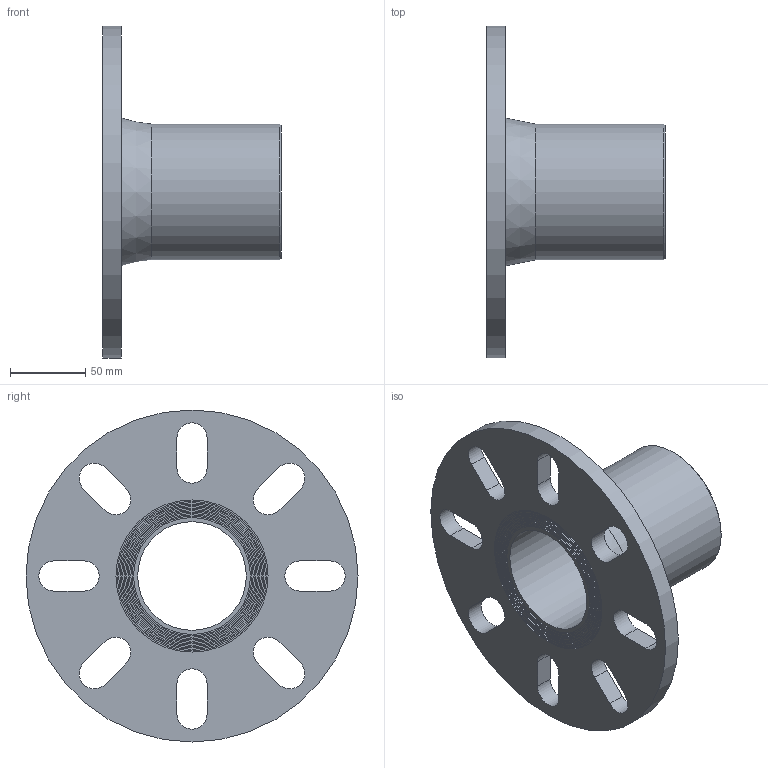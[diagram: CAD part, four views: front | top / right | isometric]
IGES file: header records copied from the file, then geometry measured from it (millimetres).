
Global section: file name: 490209090.ipt; native system: Autodesk Inventor 2015; preprocessor: unknown; author: Кирилл,,11,0; organization: 20170718.095537; date: 20171106.093605; units: millimetre
Bounding box: 118 x 220 x 220 mm (x, y, z)
Volume: 591449.3 mm3; surface area: 133848.3 mm2
Topology: 1 solids, 1 shells, 68 faces, 153 edges, 102 vertices
Faces by surface type: plane 33, revolution 24, cylinder 9, cone 2
Full cylindrical faces by diameter (mm): 77.4 x1, 81 x1, 84.6 x1, 88.2 x1, 90 x1, 91.8 x1, 95.4 x1, 99 x1, 220 x1
